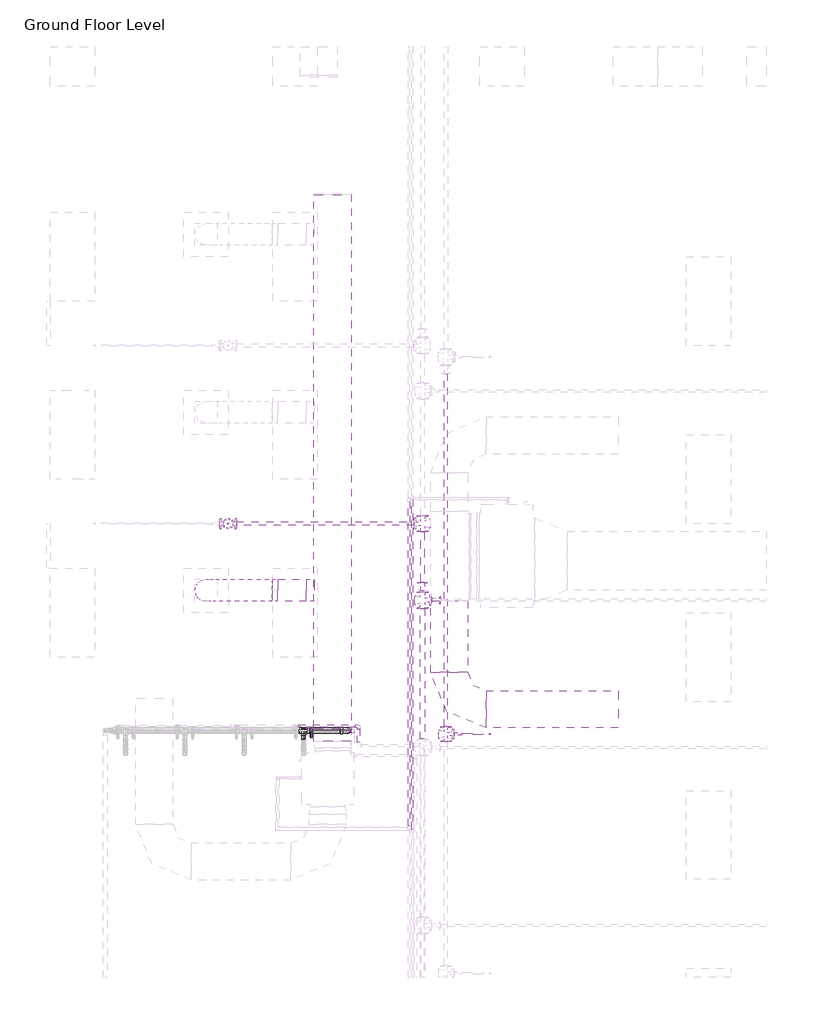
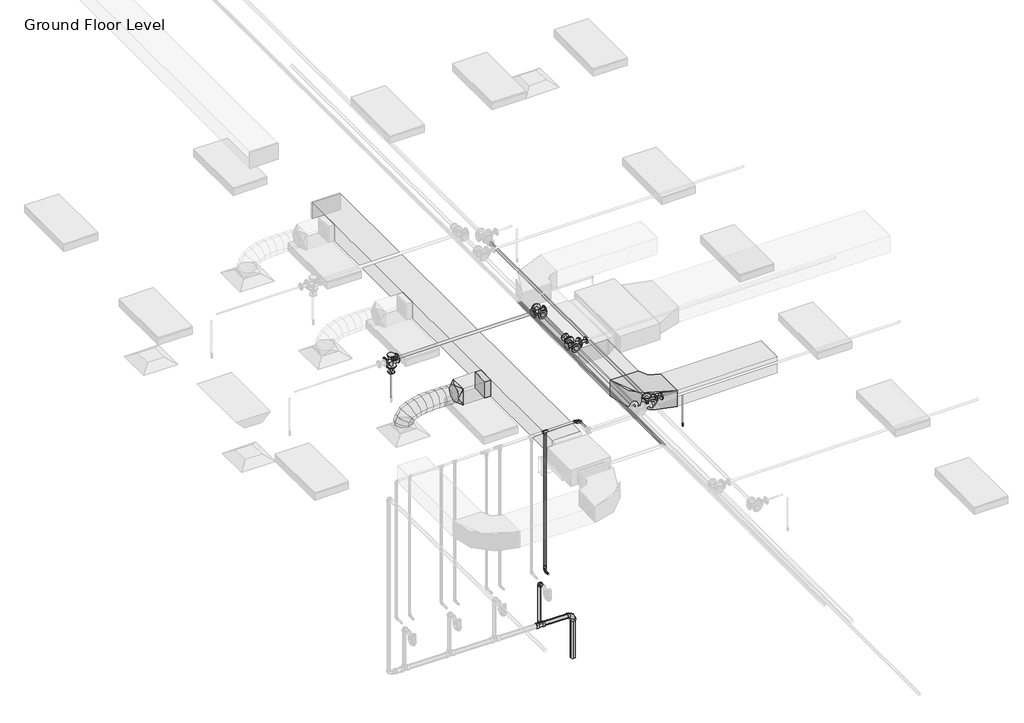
# One storey, part 24 of 66: 18 pipe segments, 16 pipe fittings, 5 duct segments, 3 duct fittings, 1 fire suppression terminal.
"""IFC4 building model written with IfcOpenShell, lengths in millimetres."""

from ifc_helpers import new_model, si_unit, point, frame, frame_2d, origin, place, context, project, spatial, polyline, circle_curve, ellipse_curve, trimmed, segment, composite_curve, outline, extrude, transform, mapped, element, save
from ifc_brep_helpers import plane_surface, cylinder_surface, advanced_brep
from components import m_rectangular_elbow_radius_1_w_abe20169, m_rectangular_takeoff_standard_cb0ccb98, m_rectangular_to_round_transition_angle_45_degree_641efff0, m_sprinkler_pendent_15_mm_pendent_06fcbd8e, m_bend_pvc_sch_40_dwv_standard_0eeb11e1, m_bend_pvc_sch_40_dwv_standard_1e7bdcc1, m_reducer_flanged_cs_class_150_standard_cc2a7c1d, m_reducer_flanged_cs_class_150_standard_3ab32b2b, m_reducer_flanged_cs_class_150_standard_a7631c35, m_reducer_flanged_cs_class_150_standard_dc68ad9d, m_tee_reducing_sanitary_pvc_sch_40_dwv_standard_21d2848c, m_tee_round_base_flanged_cs_class_150_standard_dd767e04, m_tee_round_base_flanged_cs_class_150_standard_9c9133d0, m_tee_round_base_flanged_cs_class_150_standard_ab36f383, standard_b266ab3f, standard_517a5a8d, standard_72b35c3b, standard_c7dcb452

model = new_model("IFC4")

# Units and contexts
model_context = context("Model", 3, world=origin())
ifc_project = project(units=[si_unit("LENGTHUNIT", "METRE", prefix="MILLI")], contexts=[model_context])

# Site, building, storey
site = spatial("IfcSite", under=ifc_project)
building = spatial("IfcBuilding", under=site)
storey = spatial("IfcBuildingStorey", under=building, Name="Ground Floor Level", Elevation=900.0)

# Duct fittings
placement = place(None, origin())
m_rectangular_elbow_radius_1_w_shape = m_rectangular_elbow_radius_1_w_abe20169(model_context)
element("IfcDuctFitting", 1, ObjectType="M_Rectangular Elbow - Radius : 1 W", at=placement, inside=storey, context=model_context, shape_type="MappedRepresentation", body=[
    mapped(m_rectangular_elbow_radius_1_w_shape, transform((6040.9897768, -23568.5689179, 4082.4543707), x_axis=(0.0, -1.0, 0.0), y_axis=(1.0, 0.0, 0.0), z_axis=(0.0, 0.0, 1.0))),
])
m_rectangular_takeoff_standard_shape = m_rectangular_takeoff_standard_cb0ccb98(model_context)
element("IfcDuctFitting", 2, ObjectType="M_Rectangular Takeoff : Standard", at=placement, inside=storey, context=model_context, shape_type="MappedRepresentation", body=[
    mapped(m_rectangular_takeoff_standard_shape, transform((4219.1581832, -21964.7846466, 4057.1519579), x_axis=(-1.0, 0.0, 0.0), y_axis=(0.0, 1.0, 0.0), z_axis=(0.0, 0.0, -1.0))),
])
m_rectangular_to_round_transition_angle_45_degree_shape = m_rectangular_to_round_transition_angle_45_degree_641efff0(model_context)
element("IfcDuctFitting", 3, ObjectType="M_Rectangular to Round Transition - Angle : 45 Degree", at=placement, inside=storey, context=model_context, shape_type="MappedRepresentation", body=[
    mapped(m_rectangular_to_round_transition_angle_45_degree_shape, transform((3732.9512129, -21964.7846466, 4057.1519579), x_axis=(-1.0, 0.0, 0.0), y_axis=(0.0, -1.0, 0.0), z_axis=(0.0, 0.0, 1.0))),
])

# Duct segments
element("IfcDuctSegment", 4, ObjectType="Flex - Round", at=placement, inside=storey, context=model_context, shape_type="AdvancedBrep", body=[
    advanced_brep(
    [(2912.7672395, -21964.7846466, 3826.6), (2762.7672395, -22114.7846466, 3826.6), (2612.7672395, -21964.7846466, 3826.6), (2762.7672395, -21814.7846466, 3826.6), (2912.7672395, -21964.7846466, 3832.8904143), (2762.7672395, -22114.7846466, 3856.8494149), (2612.7672395, -21964.7846466, 3880.8084155), (2762.7672395, -21814.7846466, 3856.8494149), (2914.0859082, -21964.7846466, 3836.9129923), (2779.5128239, -22114.7846466, 3907.9315565), (2644.9397396, -21964.7846466, 3978.9501208), (2779.5128239, -21814.7846466, 3907.9315565), (2928.1338147, -21964.7846466, 3855.2244817), (2826.2856906, -22114.7846466, 3968.9001322), (2724.4375665, -21964.7846466, 4082.5757828), (2826.2856906, -21814.7846466, 3968.9001322), (2960.075367, -21964.7846466, 3874.5779986), (2897.8900097, -22114.7846466, 4012.2854816), (2835.7046525, -21964.7846466, 4149.9929645), (2897.8900097, -21814.7846466, 4012.2854816), (3023.3471395, -21964.7846466, 3894.3985509), (2989.1299517, -22114.7846466, 4040.8673589), (2954.9127638, -21964.7846466, 4187.3361668), (2989.1299517, -21814.7846466, 4040.8673589), (3111.2174774, -21964.7846466, 3908.1662907), (3094.8096865, -22114.7846466, 4057.4255186), (3078.4018957, -21964.7846466, 4206.6847465), (3094.8096865, -21814.7846466, 4057.4255186), (3215.0370803, -21964.7846466, 3914.773779), (3209.7333846, -22114.7846466, 4064.7397152), (3204.4296888, -21964.7846466, 4214.7056514), (3209.7333846, -21814.7846466, 4064.7397152), (3327.4369923, -21964.7846466, 3915.576814), (3328.705216, -22114.7846466, 4065.589703), (3329.9734397, -21964.7846466, 4215.6025919), (3328.705216, -21814.7846466, 4065.589703), (3442.2113611, -21964.7846466, 3912.815715), (3446.529351, -22114.7846466, 4062.7552364), (3450.847341, -21964.7846466, 4212.6947579), (3446.529351, -21814.7846466, 4062.7552364), (3554.0566752, -21964.7846466, 3909.0643159), (3558.0099599, -22114.7846466, 4059.0160699), (3561.9632447, -21964.7846466, 4208.9678239), (3558.0099599, -21814.7846466, 4059.0160699), (3657.9512129, -21964.7846466, 3907.1519579), (3657.9512129, -21814.7846466, 4057.1519579), (3657.9512129, -21964.7846466, 4207.1519579), (3657.9512129, -22114.7846466, 4057.1519579), (3653.7148319, -21964.7846466, 3907.1519579), (3655.1538878, -22114.7846466, 4057.1519579), (3656.5929436, -21964.7846466, 4207.1519579), (3655.1538878, -21814.7846466, 4057.1519579)],
    [
        (0, 1, circle_curve(frame((2762.7672395, -21964.7846466, 3826.6), z_axis=(0.0, 0.0, -1.0), x_axis=(1.0, 0.0, 0.0)), 150.0)),
        (1, 2, circle_curve(frame((2762.7672395, -21964.7846466, 3826.6), z_axis=(0.0, 0.0, -1.0), x_axis=(1.0, 0.0, 0.0)), 150.0)),
        (2, 3, circle_curve(frame((2762.7672395, -21964.7846466, 3826.6), z_axis=(0.0, 0.0, -1.0), x_axis=(1.0, 0.0, 0.0)), 150.0)),
        (3, 0, circle_curve(frame((2762.7672395, -21964.7846466, 3826.6), z_axis=(0.0, 0.0, -1.0), x_axis=(1.0, 0.0, 0.0)), 150.0)),
        (0, 4),
        (4, 5, ellipse_curve(frame((2762.7672395, -21964.7846466, 3856.8494149), z_axis=(-0.1577273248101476, 0.0, -0.9874827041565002), x_axis=(0.9874827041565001, 0.0, -0.1577273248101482)), 151.9013947, 150.0)),
        (5, 1),
        (5, 6, ellipse_curve(frame((2762.7672395, -21964.7846466, 3856.8494149), z_axis=(-0.1577273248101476, 0.0, -0.9874827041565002), x_axis=(0.9874827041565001, 0.0, -0.1577273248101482)), 151.9013947, 150.0)),
        (6, 2),
        (6, 7, ellipse_curve(frame((2762.7672395, -21964.7846466, 3856.8494149), z_axis=(-0.1577273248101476, 0.0, -0.9874827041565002), x_axis=(0.9874827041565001, 0.0, -0.1577273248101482)), 151.9013947, 150.0)),
        (7, 3),
        (7, 4, ellipse_curve(frame((2762.7672395, -21964.7846466, 3856.8494149), z_axis=(-0.1577273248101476, 0.0, -0.9874827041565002), x_axis=(0.9874827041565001, 0.0, -0.1577273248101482)), 151.9013947, 150.0)),
        (4, 8),
        (8, 9, ellipse_curve(frame((2779.5128239, -21964.7846466, 3907.9315565), z_axis=(-0.46672716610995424, 0.0, -0.8844013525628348), x_axis=(0.8844013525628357, 0.0, -0.466727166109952)), 152.162911, 150.0)),
        (9, 5),
        (9, 10, ellipse_curve(frame((2779.5128239, -21964.7846466, 3907.9315565), z_axis=(-0.46672716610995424, 0.0, -0.8844013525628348), x_axis=(0.8844013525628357, 0.0, -0.466727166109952)), 152.162911, 150.0)),
        (10, 6),
        (10, 11, ellipse_curve(frame((2779.5128239, -21964.7846466, 3907.9315565), z_axis=(-0.46672716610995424, 0.0, -0.8844013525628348), x_axis=(0.8844013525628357, 0.0, -0.466727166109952)), 152.162911, 150.0)),
        (11, 7),
        (11, 8, ellipse_curve(frame((2779.5128239, -21964.7846466, 3907.9315565), z_axis=(-0.46672716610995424, 0.0, -0.8844013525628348), x_axis=(0.8844013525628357, 0.0, -0.466727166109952)), 152.162911, 150.0)),
        (8, 12),
        (12, 13, ellipse_curve(frame((2826.2856906, -21964.7846466, 3968.9001322), z_axis=(-0.744790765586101, 0.0, -0.6672980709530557), x_axis=(0.6672980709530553, 0.0, -0.7447907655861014)), 152.6276316, 150.0)),
        (13, 9),
        (13, 14, ellipse_curve(frame((2826.2856906, -21964.7846466, 3968.9001322), z_axis=(-0.744790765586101, 0.0, -0.6672980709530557), x_axis=(0.6672980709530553, 0.0, -0.7447907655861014)), 152.6276316, 150.0)),
        (14, 10),
        (14, 15, ellipse_curve(frame((2826.2856906, -21964.7846466, 3968.9001322), z_axis=(-0.744790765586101, 0.0, -0.6672980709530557), x_axis=(0.6672980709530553, 0.0, -0.7447907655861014)), 152.6276316, 150.0)),
        (15, 11),
        (15, 12, ellipse_curve(frame((2826.2856906, -21964.7846466, 3968.9001322), z_axis=(-0.744790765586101, 0.0, -0.6672980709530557), x_axis=(0.6672980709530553, 0.0, -0.7447907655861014)), 152.6276316, 150.0)),
        (12, 16),
        (16, 17, ellipse_curve(frame((2897.8900097, -21964.7846466, 4012.2854816), z_axis=(-0.9113833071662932, 0.0, -0.41155858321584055), x_axis=(0.41155858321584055, 0.0, -0.9113833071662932)), 151.0972187, 150.0)),
        (17, 13),
        (17, 18, ellipse_curve(frame((2897.8900097, -21964.7846466, 4012.2854816), z_axis=(-0.9113833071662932, 0.0, -0.41155858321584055), x_axis=(0.41155858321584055, 0.0, -0.9113833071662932)), 151.0972187, 150.0)),
        (18, 14),
        (18, 19, ellipse_curve(frame((2897.8900097, -21964.7846466, 4012.2854816), z_axis=(-0.9113833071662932, 0.0, -0.41155858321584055), x_axis=(0.41155858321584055, 0.0, -0.9113833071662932)), 151.0972187, 150.0)),
        (19, 15),
        (19, 16, ellipse_curve(frame((2897.8900097, -21964.7846466, 4012.2854816), z_axis=(-0.9113833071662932, 0.0, -0.41155858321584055), x_axis=(0.41155858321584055, 0.0, -0.9113833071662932)), 151.0972187, 150.0)),
        (16, 20),
        (20, 21, ellipse_curve(frame((2989.1299517, -21964.7846466, 4040.8673589), z_axis=(-0.9737806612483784, 0.0, -0.22748895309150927), x_axis=(0.22748895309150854, 0.0, -0.9737806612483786)), 150.4125249, 150.0)),
        (21, 17),
        (21, 22, ellipse_curve(frame((2989.1299517, -21964.7846466, 4040.8673589), z_axis=(-0.9737806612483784, 0.0, -0.22748895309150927), x_axis=(0.22748895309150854, 0.0, -0.9737806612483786)), 150.4125249, 150.0)),
        (22, 18),
        (22, 23, ellipse_curve(frame((2989.1299517, -21964.7846466, 4040.8673589), z_axis=(-0.9737806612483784, 0.0, -0.22748895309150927), x_axis=(0.22748895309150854, 0.0, -0.9737806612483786)), 150.4125249, 150.0)),
        (23, 19),
        (23, 20, ellipse_curve(frame((2989.1299517, -21964.7846466, 4040.8673589), z_axis=(-0.9737806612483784, 0.0, -0.22748895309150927), x_axis=(0.22748895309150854, 0.0, -0.9737806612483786)), 150.4125249, 150.0)),
        (20, 24),
        (24, 25, ellipse_curve(frame((3094.8096865, -21964.7846466, 4057.4255186), z_axis=(-0.9940121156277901, 0.0, -0.109269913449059), x_axis=(0.10926991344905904, 0.0, -0.9940121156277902)), 150.1583588, 150.0)),
        (25, 21),
        (25, 26, ellipse_curve(frame((3094.8096865, -21964.7846466, 4057.4255186), z_axis=(-0.9940121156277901, 0.0, -0.109269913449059), x_axis=(0.10926991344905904, 0.0, -0.9940121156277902)), 150.1583588, 150.0)),
        (26, 22),
        (26, 27, ellipse_curve(frame((3094.8096865, -21964.7846466, 4057.4255186), z_axis=(-0.9940121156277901, 0.0, -0.109269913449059), x_axis=(0.10926991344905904, 0.0, -0.9940121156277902)), 150.1583588, 150.0)),
        (27, 23),
        (27, 24, ellipse_curve(frame((3094.8096865, -21964.7846466, 4057.4255186), z_axis=(-0.9940121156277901, 0.0, -0.109269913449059), x_axis=(0.10926991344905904, 0.0, -0.9940121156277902)), 150.1583588, 150.0)),
        (24, 28),
        (28, 29, ellipse_curve(frame((3209.7333846, -21964.7846466, 4064.7397152), z_axis=(-0.9993752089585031, 0.0, -0.035343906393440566), x_axis=(0.035343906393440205, 0.0, -0.9993752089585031)), 150.0596922, 150.0)),
        (29, 25),
        (29, 30, ellipse_curve(frame((3209.7333846, -21964.7846466, 4064.7397152), z_axis=(-0.9993752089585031, 0.0, -0.035343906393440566), x_axis=(0.035343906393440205, 0.0, -0.9993752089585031)), 150.0596922, 150.0)),
        (30, 26),
        (30, 31, ellipse_curve(frame((3209.7333846, -21964.7846466, 4064.7397152), z_axis=(-0.9993752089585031, 0.0, -0.035343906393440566), x_axis=(0.035343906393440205, 0.0, -0.9993752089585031)), 150.0596922, 150.0)),
        (31, 27),
        (31, 28, ellipse_curve(frame((3209.7333846, -21964.7846466, 4064.7397152), z_axis=(-0.9993752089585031, 0.0, -0.035343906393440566), x_axis=(0.035343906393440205, 0.0, -0.9993752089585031)), 150.0596922, 150.0)),
        (28, 32),
        (32, 33, ellipse_curve(frame((3328.705216, -21964.7846466, 4065.589703), z_axis=(-0.9999642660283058, 0.0, 0.008453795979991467), x_axis=(-0.00845379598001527, 0.0, -0.9999642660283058)), 150.0182497, 150.0)),
        (33, 29),
        (33, 34, ellipse_curve(frame((3328.705216, -21964.7846466, 4065.589703), z_axis=(-0.9999642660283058, 0.0, 0.008453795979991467), x_axis=(-0.00845379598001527, 0.0, -0.9999642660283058)), 150.0182497, 150.0)),
        (34, 30),
        (34, 35, ellipse_curve(frame((3328.705216, -21964.7846466, 4065.589703), z_axis=(-0.9999642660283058, 0.0, 0.008453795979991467), x_axis=(-0.00845379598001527, 0.0, -0.9999642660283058)), 150.0182497, 150.0)),
        (35, 31),
        (35, 32, ellipse_curve(frame((3328.705216, -21964.7846466, 4065.589703), z_axis=(-0.9999642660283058, 0.0, 0.008453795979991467), x_axis=(-0.00845379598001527, 0.0, -0.9999642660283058)), 150.0182497, 150.0)),
        (32, 36),
        (36, 37, ellipse_curve(frame((3446.529351, -21964.7846466, 4062.7552364), z_axis=(-0.9995855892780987, 0.0, 0.028786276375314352), x_axis=(-0.028786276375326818, 0.0, -0.9995855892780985)), 150.0016838, 150.0)),
        (37, 33),
        (37, 38, ellipse_curve(frame((3446.529351, -21964.7846466, 4062.7552364), z_axis=(-0.9995855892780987, 0.0, 0.028786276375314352), x_axis=(-0.028786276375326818, 0.0, -0.9995855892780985)), 150.0016838, 150.0)),
        (38, 34),
        (38, 39, ellipse_curve(frame((3446.529351, -21964.7846466, 4062.7552364), z_axis=(-0.9995855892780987, 0.0, 0.028786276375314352), x_axis=(-0.028786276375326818, 0.0, -0.9995855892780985)), 150.0016838, 150.0)),
        (39, 35),
        (39, 36, ellipse_curve(frame((3446.529351, -21964.7846466, 4062.7552364), z_axis=(-0.9995855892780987, 0.0, 0.028786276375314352), x_axis=(-0.028786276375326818, 0.0, -0.9995855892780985)), 150.0016838, 150.0)),
        (36, 40),
        (40, 41, ellipse_curve(frame((3558.0099599, -21964.7846466, 4059.0160699), z_axis=(-0.999652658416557, 0.0, 0.026354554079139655), x_axis=(0.026354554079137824, 0.0, 0.9996526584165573)), 150.0038566, 150.0)),
        (41, 37),
        (41, 42, ellipse_curve(frame((3558.0099599, -21964.7846466, 4059.0160699), z_axis=(-0.999652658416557, 0.0, 0.026354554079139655), x_axis=(0.026354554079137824, 0.0, 0.9996526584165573)), 150.0038566, 150.0)),
        (42, 38),
        (42, 43, ellipse_curve(frame((3558.0099599, -21964.7846466, 4059.0160699), z_axis=(-0.999652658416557, 0.0, 0.026354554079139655), x_axis=(0.026354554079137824, 0.0, 0.9996526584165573)), 150.0038566, 150.0)),
        (43, 39),
        (43, 40, ellipse_curve(frame((3558.0099599, -21964.7846466, 4059.0160699), z_axis=(-0.999652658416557, 0.0, 0.026354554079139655), x_axis=(0.026354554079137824, 0.0, 0.9996526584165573)), 150.0038566, 150.0)),
        (44, 45, circle_curve(frame((3657.9512129, -21964.7846466, 4057.1519579), z_axis=(1.0, 0.0, 0.0), x_axis=(0.0, 0.0, -1.0)), 150.0)),
        (45, 46, circle_curve(frame((3657.9512129, -21964.7846466, 4057.1519579), z_axis=(1.0, 0.0, 0.0), x_axis=(0.0, 0.0, -1.0)), 150.0)),
        (46, 47, circle_curve(frame((3657.9512129, -21964.7846466, 4057.1519579), z_axis=(1.0, 0.0, 0.0), x_axis=(0.0, 0.0, -1.0)), 150.0)),
        (47, 44, circle_curve(frame((3657.9512129, -21964.7846466, 4057.1519579), z_axis=(1.0, 0.0, 0.0), x_axis=(0.0, 0.0, -1.0)), 150.0)),
        (40, 48),
        (48, 49, ellipse_curve(frame((3655.1538878, -21964.7846466, 4057.1519579), z_axis=(-0.9999539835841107, 0.0, 0.009593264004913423), x_axis=(0.009593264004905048, 0.0, 0.9999539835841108)), 150.0069028, 150.0)),
        (49, 41),
        (49, 50, ellipse_curve(frame((3655.1538878, -21964.7846466, 4057.1519579), z_axis=(-0.9999539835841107, 0.0, 0.009593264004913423), x_axis=(0.009593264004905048, 0.0, 0.9999539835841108)), 150.0069028, 150.0)),
        (50, 42),
        (50, 51, ellipse_curve(frame((3655.1538878, -21964.7846466, 4057.1519579), z_axis=(-0.9999539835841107, 0.0, 0.009593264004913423), x_axis=(0.009593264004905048, 0.0, 0.9999539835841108)), 150.0069028, 150.0)),
        (51, 43),
        (51, 48, ellipse_curve(frame((3655.1538878, -21964.7846466, 4057.1519579), z_axis=(-0.9999539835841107, 0.0, 0.009593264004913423), x_axis=(0.009593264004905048, 0.0, 0.9999539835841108)), 150.0069028, 150.0)),
        (48, 44),
        (47, 49),
        (46, 50),
        (45, 51),
    ],
    [
        plane_surface(frame((2762.7672395, -22114.7846466, 3826.6), z_axis=(0.0, 0.0, -1.0), x_axis=(1.0, 0.0, 0.0))),
        cylinder_surface(frame((2762.7672395, -21964.7846466, 3826.6), z_axis=(0.0, 0.0, -1.0), x_axis=(1.0, 0.0, 0.0)), 150.0),
        cylinder_surface(frame((2762.7672395, -21964.7846466, 3856.8494149), z_axis=(-0.3115060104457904, 0.0, -0.9502441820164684), x_axis=(0.9502441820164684, 0.0, -0.3115060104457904)), 150.0),
        cylinder_surface(frame((2779.5128239, -21964.7846466, 3907.9315565), z_axis=(-0.6086797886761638, 0.0, -0.7934159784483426), x_axis=(0.7934159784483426, 0.0, -0.6086797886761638)), 150.0),
        cylinder_surface(frame((2826.2856906, -21964.7846466, 3968.9001322), z_axis=(-0.8552571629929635, 0.0, -0.5182038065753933), x_axis=(0.5182038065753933, 0.0, -0.8552571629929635)), 150.0),
        cylinder_surface(frame((2897.8900097, -21964.7846466, 4012.2854816), z_axis=(-0.9542731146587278, 0.0, -0.29893615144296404), x_axis=(0.29893615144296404, 0.0, -0.9542731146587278)), 150.0),
        cylinder_surface(frame((2989.1299517, -21964.7846466, 4040.8673589), z_axis=(-0.9879467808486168, 0.0, -0.15479392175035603), x_axis=(0.15479392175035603, 0.0, -0.9879467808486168)), 150.0),
        cylinder_surface(frame((3094.8096865, -21964.7846466, 4057.4255186), z_axis=(-0.997980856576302, 0.0, -0.06351543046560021), x_axis=(0.06351543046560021, 0.0, -0.997980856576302)), 150.0),
        cylinder_surface(frame((3209.7333846, -21964.7846466, 4064.7397152), z_axis=(-0.9999744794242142, 0.0, -0.007144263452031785), x_axis=(0.007144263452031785, 0.0, -0.9999744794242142)), 150.0),
        cylinder_surface(frame((3328.705216, -21964.7846466, 4065.589703), z_axis=(-0.9997107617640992, 0.0, 0.024049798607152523), x_axis=(-0.024049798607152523, 0.0, -0.9997107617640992)), 150.0),
        cylinder_surface(frame((3446.529351, -21964.7846466, 4062.7552364), z_axis=(-0.9994379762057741, 0.0, 0.03352210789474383), x_axis=(-0.03352210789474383, 0.0, -0.9994379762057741)), 150.0),
        plane_surface(frame((3657.9512129, -21964.7846466, 3907.1519579), z_axis=(1.0, 0.0, 0.0), x_axis=(0.0, 1.0, 0.0))),
        cylinder_surface(frame((3558.0099599, -21964.7846466, 4059.0160699), z_axis=(-0.9998159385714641, 0.0, 0.01918564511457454), x_axis=(-0.01918564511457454, 0.0, -0.9998159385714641)), 150.0),
        cylinder_surface(frame((3655.1538878, -21964.7846466, 4057.1519579), z_axis=(-1.0, 0.0, 0.0), x_axis=(0.0, 0.0, -1.0)), 150.0),
    ],
    [
        (0, [[1, 2, 3, 4]]),
        (1, [[-1, 5, 6, 7]]),
        (1, [[-2, -7, 8, 9]]),
        (1, [[-3, -9, 10, 11]]),
        (1, [[-4, -11, 12, -5]]),
        (2, [[-6, 13, 14, 15]]),
        (2, [[-8, -15, 16, 17]]),
        (2, [[-10, -17, 18, 19]]),
        (2, [[-12, -19, 20, -13]]),
        (3, [[-14, 21, 22, 23]]),
        (3, [[-16, -23, 24, 25]]),
        (3, [[-18, -25, 26, 27]]),
        (3, [[-20, -27, 28, -21]]),
        (4, [[-22, 29, 30, 31]]),
        (4, [[-24, -31, 32, 33]]),
        (4, [[-26, -33, 34, 35]]),
        (4, [[-28, -35, 36, -29]]),
        (5, [[-30, 37, 38, 39]]),
        (5, [[-32, -39, 40, 41]]),
        (5, [[-34, -41, 42, 43]]),
        (5, [[-36, -43, 44, -37]]),
        (6, [[-38, 45, 46, 47]]),
        (6, [[-40, -47, 48, 49]]),
        (6, [[-42, -49, 50, 51]]),
        (6, [[-44, -51, 52, -45]]),
        (7, [[-46, 53, 54, 55]]),
        (7, [[-48, -55, 56, 57]]),
        (7, [[-50, -57, 58, 59]]),
        (7, [[-52, -59, 60, -53]]),
        (8, [[-54, 61, 62, 63]]),
        (8, [[-56, -63, 64, 65]]),
        (8, [[-58, -65, 66, 67]]),
        (8, [[-60, -67, 68, -61]]),
        (9, [[-62, 69, 70, 71]]),
        (9, [[-64, -71, 72, 73]]),
        (9, [[-66, -73, 74, 75]]),
        (9, [[-68, -75, 76, -69]]),
        (10, [[-70, 77, 78, 79]]),
        (10, [[-72, -79, 80, 81]]),
        (10, [[-74, -81, 82, 83]]),
        (10, [[-76, -83, 84, -77]]),
        (11, [[85, 86, 87, 88]]),
        (12, [[-78, 89, 90, 91]]),
        (12, [[-80, -91, 92, 93]]),
        (12, [[-82, -93, 94, 95]]),
        (12, [[-84, -95, 96, -89]]),
        (13, [[-90, 97, -88, 98]]),
        (13, [[-92, -98, -87, 99]]),
        (13, [[-94, -99, -86, 100]]),
        (13, [[-96, -100, -85, -97]]),
    ],
),
])
element("IfcDuctSegment", 5, ObjectType="Radius Elbows / Taps", at=placement, inside=storey, context=model_context, shape_type="SweptSolid", body=[
    extrude(outline(polyline([(0.0, -500.0), (0.0, 0.0), (7371.604175, 0.0), (7371.604175, -500.0), (0.0, -500.0)])), frame((4719.1581832, -16631.8629481, 3907.1429453), z_axis=(0.0, 1.6199957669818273e-06, 0.9999999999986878), x_axis=(0.0, -0.9999999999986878, 1.6199957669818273e-06)), (0.0, 0.0, 1.0), 300.0),
])
element("IfcDuctSegment", 6, ObjectType="Radius Elbows / Taps", at=placement, inside=storey, context=model_context, shape_type="SweptSolid", body=[
    extrude(outline(polyline([(5790.9897768, -22108.5689179), (6290.9897768, -22108.5689179), (6290.9897768, -23068.5689179), (5790.9897768, -23068.5689179), (5790.9897768, -22108.5689179)])), frame((0.0, 0.0, 3932.4543707), z_axis=(0.0, 0.0, 1.0), x_axis=(1.0, 0.0, 0.0)), (0.0, 0.0, 1.0), 300.0),
])
element("IfcDuctSegment", 7, ObjectType="Radius Elbows / Taps", at=placement, inside=storey, context=model_context, shape_type="SweptSolid", body=[
    extrude(outline(polyline([(6540.9897768, -23818.5689179), (6540.9897768, -23318.5689179), (8320.9897766, -23318.5689179), (8320.9897766, -23818.5689179), (6540.9897768, -23818.5689179)])), frame((0.0, 0.0, 3932.4543707), z_axis=(0.0, 0.0, 1.0), x_axis=(1.0, 0.0, 0.0)), (0.0, 0.0, 1.0), 300.0),
])
element("IfcDuctSegment", 8, ObjectType="Radius Elbows / Taps", at=placement, inside=storey, context=model_context, shape_type="SweptSolid", body=[
    extrude(outline(polyline([(4117.5581832, -21814.7846466), (4117.5581832, -22114.7846466), (3732.9512129, -22114.7846466), (3732.9512129, -21814.7846466), (4117.5581832, -21814.7846466)])), frame((0.0, 0.0, 3907.1519579), z_axis=(0.0, 0.0, 1.0), x_axis=(1.0, 0.0, 0.0)), (0.0, 0.0, 1.0), 300.0),
])

# Fire suppression terminal
m_sprinkler_pendent_15_mm_pendent_shape = m_sprinkler_pendent_15_mm_pendent_06fcbd8e(model_context)
element("IfcFireSuppressionTerminal", 9, ObjectType="M_Sprinkler - Pendent : 15 mm Pendent", at=placement, inside=storey, context=model_context, shape_type="MappedRepresentation", body=[
    mapped(m_sprinkler_pendent_15_mm_pendent_shape, transform((6592.5481019, -23903.6779349, 3650.0), x_axis=(1.0, 0.0, 0.0), y_axis=(0.0, 1.0, 0.0), z_axis=(0.0, 0.0, 1.0))),
])

# Pipe fittings
m_bend_pvc_sch_40_dwv_standard_shape = m_bend_pvc_sch_40_dwv_standard_0eeb11e1(model_context)
element("IfcPipeFitting", 10, ObjectType="M_Bend - PVC - Sch 40 - DWV : Standard", at=placement, inside=storey, context=model_context, shape_type="MappedRepresentation", body=[
    mapped(m_bend_pvc_sch_40_dwv_standard_shape, transform((4671.3267974, -23854.2948449, 706.9937306), x_axis=(0.9999500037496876, 0.0, -0.009999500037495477), y_axis=(-0.009999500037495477, 0.0, -0.9999500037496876), z_axis=(0.0, 1.0, 0.0))),
])
m_bend_pvc_sch_40_dwv_standard_2_shape = m_bend_pvc_sch_40_dwv_standard_1e7bdcc1(model_context)
element("IfcPipeFitting", 11, ObjectType="M_Bend - PVC - Sch 40 - DWV : Standard", at=placement, inside=storey, context=model_context, shape_type="MappedRepresentation", body=[
    mapped(m_bend_pvc_sch_40_dwv_standard_2_shape, transform((4078.7498, -23854.2948449, 1508.2594199), x_axis=(0.0, 0.9999500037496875, -0.00999950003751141), y_axis=(0.0, -0.00999950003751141, -0.9999500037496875), z_axis=(-1.0, 0.0, 0.0))),
])
m_reducer_flanged_cs_class_150_standard_shape = m_reducer_flanged_cs_class_150_standard_cc2a7c1d(model_context)
element("IfcPipeFitting", 12, ObjectType="M_Reducer - Flanged - CS - Class 150 : Standard", at=placement, inside=storey, context=model_context, shape_type="MappedRepresentation", body=[
    mapped(m_reducer_flanged_cs_class_150_standard_shape, transform((6103.1564057, -23903.6779349, 4291.2754753), x_axis=(1.0, 0.0, 0.0), y_axis=(0.0, 0.0, -1.0), z_axis=(0.0, 1.0, 0.0))),
])
m_reducer_flanged_cs_class_150_standard_2_shape = m_reducer_flanged_cs_class_150_standard_3ab32b2b(model_context)
element("IfcPipeFitting", 13, ObjectType="M_Reducer - Flanged - CS - Class 150 : Standard", at=placement, inside=storey, context=model_context, shape_type="MappedRepresentation", body=[
    mapped(m_reducer_flanged_cs_class_150_standard_2_shape, transform((5684.6174894, -21984.0287346, 4347.5), x_axis=(0.0, 1.0, 0.0), y_axis=(-1.0, 0.0, 0.0), z_axis=(0.0, 0.0, 1.0))),
])
m_reducer_flanged_cs_class_150_standard_3_shape = m_reducer_flanged_cs_class_150_standard_a7631c35(model_context)
element("IfcPipeFitting", 14, ObjectType="M_Reducer - Flanged - CS - Class 150 : Standard", at=placement, inside=storey, context=model_context, shape_type="MappedRepresentation", body=[
    mapped(m_reducer_flanged_cs_class_150_standard_3_shape, transform((5798.6174894, -22098.0287346, 4347.5), x_axis=(1.0, 0.0, 0.0), y_axis=(0.0, 0.0, 1.0), z_axis=(0.0, -1.0, 0.0))),
])
m_reducer_flanged_cs_class_150_standard_4_shape = m_reducer_flanged_cs_class_150_standard_dc68ad9d(model_context)
element("IfcPipeFitting", 15, ObjectType="M_Reducer - Flanged - CS - Class 150 : Standard", at=placement, inside=storey, context=model_context, shape_type="MappedRepresentation", body=[
    mapped(m_reducer_flanged_cs_class_150_standard_4_shape, transform((3062.7672395, -21064.7846466, 4235.2414062), x_axis=(0.0, 0.0, -1.0), y_axis=(-1.0, 0.0, 0.0), z_axis=(0.0, 1.0, 0.0))),
])
m_tee_reducing_sanitary_pvc_sch_40_dwv_standard_shape = m_tee_reducing_sanitary_pvc_sch_40_dwv_standard_21d2848c(model_context)
element("IfcPipeFitting", 16, ObjectType="M_Tee Reducing Sanitary - PVC - Sch 40 - DWV : Standard", at=placement, inside=storey, context=model_context, shape_type="MappedRepresentation", body=[
    mapped(m_tee_reducing_sanitary_pvc_sch_40_dwv_standard_shape, transform((4078.7498, -23854.2948449, 713.0632162), x_axis=(-0.9999500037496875, 0.0, 0.00999950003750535), y_axis=(-0.00999950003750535, 0.0, -0.9999500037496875), z_axis=(0.0, -1.0, 0.0))),
])
m_tee_round_base_flanged_cs_class_150_standard_shape = m_tee_round_base_flanged_cs_class_150_standard_dd767e04(model_context)
element("IfcPipeFitting", 17, ObjectType="M_Tee Round Base - Flanged - CS - Class 150 : Standard", at=placement, inside=storey, context=model_context, shape_type="MappedRepresentation", body=[
    mapped(m_tee_round_base_flanged_cs_class_150_standard_shape, transform((5684.6174894, -22098.0287346, 4347.5), x_axis=(0.0, -1.0, 0.0), y_axis=(-1.0, 0.0, 0.0), z_axis=(0.0, 0.0, -1.0))),
])
m_tee_round_base_flanged_cs_class_150_standard_2_shape = m_tee_round_base_flanged_cs_class_150_standard_9c9133d0(model_context)
element("IfcPipeFitting", 18, ObjectType="M_Tee Round Base - Flanged - CS - Class 150 : Standard", at=placement, inside=storey, context=model_context, shape_type="MappedRepresentation", body=[
    mapped(m_tee_round_base_flanged_cs_class_150_standard_2_shape, transform((5997.057812, -23903.6779349, 4291.0943441), x_axis=(0.0, 1.0, 0.0), y_axis=(-1.0, 0.0, 0.0), z_axis=(0.0, 0.0, 1.0))),
])
m_tee_round_base_flanged_cs_class_150_standard_3_shape = m_tee_round_base_flanged_cs_class_150_standard_ab36f383(model_context)
element("IfcPipeFitting", 19, ObjectType="M_Tee Round Base - Flanged - CS - Class 150 : Standard", at=placement, inside=storey, context=model_context, shape_type="MappedRepresentation", body=[
    mapped(m_tee_round_base_flanged_cs_class_150_standard_3_shape, transform((5684.6174894, -21064.7846466, 4347.5), x_axis=(0.0, -1.0, 0.0), y_axis=(1.0, 0.0, 0.0), z_axis=(0.0, 0.0, 1.0))),
])
element("IfcPipeFitting", 20, ObjectType="M_Tee Round Base - Flanged - CS - Class 150 : Standard", at=placement, inside=storey, context=model_context, shape_type="MappedRepresentation", body=[
    mapped(m_tee_round_base_flanged_cs_class_150_standard_3_shape, transform((3062.7672395, -21064.7846466, 4347.5), x_axis=(-1.0, 0.0, 0.0), y_axis=(0.0, 0.0, 1.0), z_axis=(0.0, 1.0, 0.0))),
])
standard_shape = standard_b266ab3f(model_context)
element("IfcPipeFitting", 21, ObjectType="M_Elbow - CPVC - Sch 40 : Standard", at=placement, inside=storey, context=model_context, shape_type="MappedRepresentation", body=[
    mapped(standard_shape, transform((4183.0647206, -23844.7846466, 1690.0), x_axis=(0.0, 1.0, 0.0), y_axis=(0.0, 0.0, 1.0), z_axis=(1.0, 0.0, 0.0))),
])
standard_2_shape = standard_517a5a8d(model_context)
element("IfcPipeFitting", 22, ObjectType="M_Elbow - CPVC - Sch 40 : Standard", at=placement, inside=storey, context=model_context, shape_type="MappedRepresentation", body=[
    mapped(standard_2_shape, transform((4743.0647206, -23844.7846466, 4300.0), x_axis=(0.0, 1.0, 0.0), y_axis=(-1.0, 0.0, 0.0), z_axis=(0.0, 0.0, 1.0))),
])
element("IfcPipeFitting", 23, ObjectType="M_Elbow - CPVC - Sch 40 : Standard", at=placement, inside=storey, context=model_context, shape_type="MappedRepresentation", body=[
    mapped(standard_2_shape, transform((4820.5575802, -23794.921633, 4250.0), x_axis=(0.0, 1.0, 0.0), y_axis=(-1.0, 0.0, 0.0), z_axis=(0.0, 0.0, 1.0))),
])
standard_3_shape = standard_72b35c3b(model_context)
element("IfcPipeFitting", 24, ObjectType="M_Tee - CPVC - Sch 40 : Standard", at=placement, inside=storey, context=model_context, shape_type="MappedRepresentation", body=[
    mapped(standard_3_shape, transform((4183.0647206, -23844.7846466, 4300.0), x_axis=(-1.0, 0.0, 0.0), y_axis=(0.0, 0.0, 1.0), z_axis=(0.0, 1.0, 0.0))),
])
standard_4_shape = standard_c7dcb452(model_context)
element("IfcPipeFitting", 25, ObjectType="M_Coupling Reducing - CPVC - Sch 40 : Standard", at=placement, inside=storey, context=model_context, shape_type="MappedRepresentation", body=[
    mapped(standard_4_shape, transform((4183.0647206, -23844.7846466, 1725.32505), x_axis=(0.0, 0.0, 1.0), y_axis=(0.0, 1.0, 0.0), z_axis=(-1.0, 0.0, 0.0))),
])

# Pipe segments
element("IfcPipeSegment", 26, ObjectType="CPVC", at=placement, inside=storey, context=model_context, shape_type="SweptSolid", body=[
    extrude(outline(composite_curve([segment(trimmed(circle_curve(frame_2d((1690.0, 4183.0647206)), 13.335), [point((1690.0, 4196.3997206))], [point((1703.335, 4183.0647206))], False, "CARTESIAN"), True, "CONTINUOUS"), segment(trimmed(circle_curve(frame_2d((1690.0, 4183.0647206)), 13.335), [point((1703.335, 4183.0647206))], [point((1690.0, 4169.7297206))], False, "CARTESIAN"), True, "CONTINUOUS"), segment(trimmed(circle_curve(frame_2d((1690.0, 4183.0647206)), 13.335), [point((1690.0, 4169.7297206))], [point((1676.665, 4183.0647206))], False, "CARTESIAN"), True, "CONTINUOUS"), segment(trimmed(circle_curve(frame_2d((1690.0, 4183.0647206)), 13.335), [point((1676.665, 4183.0647206))], [point((1690.0, 4196.3997206))], False, "CARTESIAN"), True, "CONTINUOUS")], self_intersect=False)), frame((0.0, -23944.7846466, 0.0), z_axis=(0.0, 1.0, 0.0), x_axis=(0.0, 0.0, 1.0)), (0.0, 0.0, 1.0), 64.67495),
])
element("IfcPipeSegment", 27, ObjectType="CPVC", at=placement, inside=storey, context=model_context, shape_type="SweptSolid", body=[
    extrude(outline(composite_curve([segment(trimmed(circle_curve(frame_2d((-23844.7846466, 4300.0)), 16.7005), [point((-23861.4851466, 4300.0))], [point((-23844.7846466, 4316.7005))], False, "CARTESIAN"), True, "CONTINUOUS"), segment(trimmed(circle_curve(frame_2d((-23844.7846466, 4300.0)), 16.7005), [point((-23844.7846466, 4316.7005))], [point((-23828.0841466, 4300.0))], False, "CARTESIAN"), True, "CONTINUOUS"), segment(trimmed(circle_curve(frame_2d((-23844.7846466, 4300.0)), 16.7005), [point((-23828.0841466, 4300.0))], [point((-23844.7846466, 4283.2995))], False, "CARTESIAN"), True, "CONTINUOUS"), segment(trimmed(circle_curve(frame_2d((-23844.7846466, 4300.0)), 16.7005), [point((-23844.7846466, 4283.2995))], [point((-23861.4851466, 4300.0))], False, "CARTESIAN"), True, "CONTINUOUS")], self_intersect=False)), frame((4222.7649206, 0.0, 0.0), z_axis=(1.0, 0.0, 0.0), x_axis=(0.0, 1.0, 0.0)), (0.0, 0.0, 1.0), 477.03725),
])
element("IfcPipeSegment", 28, ObjectType="CPVC", at=placement, inside=storey, context=model_context, shape_type="SweptSolid", body=[
    extrude(outline(composite_curve([segment(trimmed(circle_curve(frame_2d((4183.0647206, -23844.7846466)), 16.7005), [point((4166.3642206, -23844.7846466))], [point((4183.0647206, -23828.0841466))], False, "CARTESIAN"), True, "CONTINUOUS"), segment(trimmed(circle_curve(frame_2d((4183.0647206, -23844.7846466)), 16.7005), [point((4183.0647206, -23828.0841466))], [point((4199.7652206, -23844.7846466))], False, "CARTESIAN"), True, "CONTINUOUS"), segment(trimmed(circle_curve(frame_2d((4183.0647206, -23844.7846466)), 16.7005), [point((4199.7652206, -23844.7846466))], [point((4183.0647206, -23861.4851466))], False, "CARTESIAN"), True, "CONTINUOUS"), segment(trimmed(circle_curve(frame_2d((4183.0647206, -23844.7846466)), 16.7005), [point((4183.0647206, -23861.4851466))], [point((4166.3642206, -23844.7846466))], False, "CARTESIAN"), True, "CONTINUOUS")], self_intersect=False)), frame((0.0, 0.0, 1782.47505), z_axis=(0.0, 0.0, 1.0), x_axis=(1.0, 0.0, 0.0)), (0.0, 0.0, 1.0), 2477.82475),
])
element("IfcPipeSegment", 29, ObjectType="CPVC", at=placement, inside=storey, context=model_context, shape_type="SweptSolid", body=[
    extrude(outline(composite_curve([segment(trimmed(circle_curve(frame_2d((4250.0, 4820.5575802)), 16.7005), [point((4250.0, 4837.2580802))], [point((4266.7005, 4820.5575802))], False, "CARTESIAN"), True, "CONTINUOUS"), segment(trimmed(circle_curve(frame_2d((4250.0, 4820.5575802)), 16.7005), [point((4266.7005, 4820.5575802))], [point((4250.0, 4803.8570802))], False, "CARTESIAN"), True, "CONTINUOUS"), segment(trimmed(circle_curve(frame_2d((4250.0, 4820.5575802)), 16.7005), [point((4250.0, 4803.8570802))], [point((4233.2995, 4820.5575802))], False, "CARTESIAN"), True, "CONTINUOUS"), segment(trimmed(circle_curve(frame_2d((4250.0, 4820.5575802)), 16.7005), [point((4233.2995, 4820.5575802))], [point((4250.0, 4837.2580802))], False, "CARTESIAN"), True, "CONTINUOUS")], self_intersect=False)), frame((0.0, -24011.659083, 0.0), z_axis=(0.0, 1.0, 0.0), x_axis=(0.0, 0.0, 1.0)), (0.0, 0.0, 1.0), 173.4749),
])
element("IfcPipeSegment", 30, ObjectType="CPVC", at=placement, inside=storey, context=model_context, shape_type="SweptSolid", body=[
    extrude(outline(composite_curve([segment(trimmed(circle_curve(frame_2d((-23794.921633, 4250.0)), 16.7005), [point((-23811.622133, 4250.0))], [point((-23794.921633, 4266.7005))], False, "CARTESIAN"), True, "CONTINUOUS"), segment(trimmed(circle_curve(frame_2d((-23794.921633, 4250.0)), 16.7005), [point((-23794.921633, 4266.7005))], [point((-23778.221133, 4250.0))], False, "CARTESIAN"), True, "CONTINUOUS"), segment(trimmed(circle_curve(frame_2d((-23794.921633, 4250.0)), 16.7005), [point((-23778.221133, 4250.0))], [point((-23794.921633, 4233.2995))], False, "CARTESIAN"), True, "CONTINUOUS"), segment(trimmed(circle_curve(frame_2d((-23794.921633, 4250.0)), 16.7005), [point((-23794.921633, 4233.2995))], [point((-23811.622133, 4250.0))], False, "CARTESIAN"), True, "CONTINUOUS")], self_intersect=False)), frame((4014.1350794, 0.0, 0.0), z_axis=(1.0, 0.0, 0.0), x_axis=(0.0, 1.0, 0.0)), (0.0, 0.0, 1.0), 763.1599508),
])
element("IfcPipeSegment", 31, ObjectType="Copper", at=placement, inside=storey, context=model_context, shape_type="SweptSolid", body=[
    extrude(outline(composite_curve([segment(trimmed(circle_curve(frame_2d((4377.5, 5543.9904113)), 6.5), [point((4377.5, 5550.4904113))], [point((4384.0, 5543.9904113))], False, "CARTESIAN"), True, "CONTINUOUS"), segment(trimmed(circle_curve(frame_2d((4377.5, 5543.9904113)), 6.5), [point((4384.0, 5543.9904113))], [point((4377.5, 5537.4904113))], False, "CARTESIAN"), True, "CONTINUOUS"), segment(trimmed(circle_curve(frame_2d((4377.5, 5543.9904113)), 6.5), [point((4377.5, 5537.4904113))], [point((4371.0, 5543.9904113))], False, "CARTESIAN"), True, "CONTINUOUS"), segment(trimmed(circle_curve(frame_2d((4377.5, 5543.9904113)), 6.5), [point((4371.0, 5543.9904113))], [point((4377.5, 5550.4904113))], False, "CARTESIAN"), True, "CONTINUOUS")], self_intersect=False)), frame((0.0, -25185.8524508, 0.0), z_axis=(0.0, 1.0, 0.0), x_axis=(0.0, 0.0, 1.0)), (0.0, 0.0, 1.0), 4453.3686516),
])
element("IfcPipeSegment", 32, ObjectType="Copper", at=placement, inside=storey, context=model_context, shape_type="SweptSolid", body=[
    extrude(outline(composite_curve([segment(trimmed(circle_curve(frame_2d((4390.0, 5497.8951827)), 9.75), [point((4390.0, 5507.6451827))], [point((4399.75, 5497.8951827))], False, "CARTESIAN"), True, "CONTINUOUS"), segment(trimmed(circle_curve(frame_2d((4390.0, 5497.8951827)), 9.75), [point((4399.75, 5497.8951827))], [point((4390.0, 5488.1451827))], False, "CARTESIAN"), True, "CONTINUOUS"), segment(trimmed(circle_curve(frame_2d((4390.0, 5497.8951827)), 9.75), [point((4390.0, 5488.1451827))], [point((4380.25, 5497.8951827))], False, "CARTESIAN"), True, "CONTINUOUS"), segment(trimmed(circle_curve(frame_2d((4390.0, 5497.8951827)), 9.75), [point((4380.25, 5497.8951827))], [point((4390.0, 5507.6451827))], False, "CARTESIAN"), True, "CONTINUOUS")], self_intersect=False)), frame((0.0, -25138.2771488, 0.0), z_axis=(0.0, 1.0, 0.0), x_axis=(0.0, 0.0, 1.0)), (0.0, 0.0, 1.0), 4369.0669095),
])
element("IfcPipeSegment", 33, ObjectType="PVC - DWV", at=placement, inside=storey, context=model_context, shape_type="SweptSolid", body=[
    extrude(outline(composite_curve([segment(trimmed(circle_curve(frame_2d((0.0, -36.5125)), 36.5125), [point((0.0, -73.025))], [point((-36.5125001, -36.5125))], False, "CARTESIAN"), True, "CONTINUOUS"), segment(trimmed(circle_curve(frame_2d((0.0, -36.5125)), 36.5125), [point((-36.5125001, -36.5125))], [point((0.0, 0.0))], False, "CARTESIAN"), True, "CONTINUOUS"), segment(trimmed(circle_curve(frame_2d((0.0, -36.5125)), 36.5125), [point((0.0, 0.0))], [point((36.5125, -36.5125))], False, "CARTESIAN"), True, "CONTINUOUS"), segment(trimmed(circle_curve(frame_2d((0.0, -36.5125)), 36.5125), [point((36.5125, -36.5125))], [point((0.0, -73.025))], False, "CARTESIAN"), True, "CONTINUOUS")], self_intersect=False)), frame((4572.3191851, -23817.7823449, 708.1338068), z_axis=(-0.9999501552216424, 0.0, 0.009984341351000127), x_axis=(0.009984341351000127, 0.0, 0.9999501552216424)), (0.0, 0.0, 1.0), 414.5308814),
])
element("IfcPipeSegment", 34, ObjectType="PVC - DWV", at=placement, inside=storey, context=model_context, shape_type="SweptSolid", body=[
    extrude(outline(composite_curve([segment(trimmed(circle_curve(frame_2d((0.0, -24.13)), 24.13), [point((24.13, -24.13))], [point((0.0, -48.26))], False, "CARTESIAN"), True, "CONTINUOUS"), segment(trimmed(circle_curve(frame_2d((0.0, -24.13)), 24.13), [point((0.0, -48.26))], [point((-24.13, -24.13))], False, "CARTESIAN"), True, "CONTINUOUS"), segment(trimmed(circle_curve(frame_2d((0.0, -24.13)), 24.13), [point((-24.13, -24.13))], [point((0.0, 0.0))], False, "CARTESIAN"), True, "CONTINUOUS"), segment(trimmed(circle_curve(frame_2d((0.0, -24.13)), 24.13), [point((0.0, 0.0))], [point((24.13, -24.13))], False, "CARTESIAN"), True, "CONTINUOUS")], self_intersect=False)), frame((4078.7498, -23915.9502622, 1533.0071805), z_axis=(0.0, -0.9999500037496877, 0.009999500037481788), x_axis=(1.0, 0.0, 0.0)), (0.0, 0.0, 1.0), 60.2666156),
])
element("IfcPipeSegment", 35, ObjectType="PVC - DWV", at=placement, inside=storey, context=model_context, shape_type="SweptSolid", body=[
    extrude(outline(composite_curve([segment(trimmed(circle_curve(frame_2d((4078.7498, -23854.2948449)), 24.13), [point((4054.6198, -23854.2948449))], [point((4078.7498, -23830.1648449))], False, "CARTESIAN"), True, "CONTINUOUS"), segment(trimmed(circle_curve(frame_2d((4078.7498, -23854.2948449)), 24.13), [point((4078.7498, -23830.1648449))], [point((4102.8798, -23854.2948449))], False, "CARTESIAN"), True, "CONTINUOUS"), segment(trimmed(circle_curve(frame_2d((4078.7498, -23854.2948449)), 24.13), [point((4102.8798, -23854.2948449))], [point((4078.7498, -23878.4248449))], False, "CARTESIAN"), True, "CONTINUOUS"), segment(trimmed(circle_curve(frame_2d((4078.7498, -23854.2948449)), 24.13), [point((4078.7498, -23878.4248449))], [point((4054.6198, -23854.2948449))], False, "CARTESIAN"), True, "CONTINUOUS")], self_intersect=False)), frame((0.0, 0.0, 793.9106725), z_axis=(0.0, 0.0, 1.0), x_axis=(1.0, 0.0, 0.0)), (0.0, 0.0, 1.0), 652.4489474),
])
element("IfcPipeSegment", 36, ObjectType="PVC - DWV", at=placement, inside=storey, context=model_context, shape_type="SweptSolid", body=[
    extrude(outline(composite_curve([segment(trimmed(circle_curve(frame_2d((0.0, -36.5125)), 36.5125), [point((-36.5125, -36.5125))], [point((0.0, 0.0))], False, "CARTESIAN"), True, "CONTINUOUS"), segment(trimmed(circle_curve(frame_2d((0.0, -36.5125)), 36.5125), [point((0.0, 0.0))], [point((36.5125, -36.5125))], False, "CARTESIAN"), True, "CONTINUOUS"), segment(trimmed(circle_curve(frame_2d((0.0, -36.5125)), 36.5125), [point((36.5125, -36.5125))], [point((0.0, -73.025))], False, "CARTESIAN"), True, "CONTINUOUS"), segment(trimmed(circle_curve(frame_2d((0.0, -36.5125)), 36.5125), [point((0.0, -73.025))], [point((-36.5125, -36.5125))], False, "CARTESIAN"), True, "CONTINUOUS")], self_intersect=False)), frame((4671.2998001, -23890.8073449, -100.0), z_axis=(3.81328750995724e-05, 0.0, 0.999999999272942), x_axis=(-0.999999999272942, 0.0, 3.81328750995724e-05)), (0.0, 0.0, 1.0), 707.9796686),
])
element("IfcPipeSegment", 37, ObjectType="Steel flanged", at=placement, inside=storey, context=model_context, shape_type="SweptSolid", body=[
    extrude(outline(composite_curve([segment(trimmed(circle_curve(frame_2d((6592.5481019, -23903.6779349)), 10.668), [point((6581.8801019, -23903.6779349))], [point((6592.5481019, -23893.0099349))], False, "CARTESIAN"), True, "CONTINUOUS"), segment(trimmed(circle_curve(frame_2d((6592.5481019, -23903.6779349)), 10.668), [point((6592.5481019, -23893.0099349))], [point((6603.2161019, -23903.6779349))], False, "CARTESIAN"), True, "CONTINUOUS"), segment(trimmed(circle_curve(frame_2d((6592.5481019, -23903.6779349)), 10.668), [point((6603.2161019, -23903.6779349))], [point((6592.5481019, -23914.3459349))], False, "CARTESIAN"), True, "CONTINUOUS"), segment(trimmed(circle_curve(frame_2d((6592.5481019, -23903.6779349)), 10.668), [point((6592.5481019, -23914.3459349))], [point((6581.8801019, -23903.6779349))], False, "CARTESIAN"), True, "CONTINUOUS")], self_intersect=False)), frame((0.0, 0.0, 3650.0), z_axis=(0.0, 0.0, 1.0), x_axis=(1.0, 0.0, 0.0)), (0.0, 0.0, 1.0), 548.2668816),
])
element("IfcPipeSegment", 38, ObjectType="Steel flanged", at=placement, inside=storey, context=model_context, shape_type="SweptSolid", body=[
    extrude(outline(composite_curve([segment(trimmed(circle_curve(frame_2d((-23903.6779349, 4291.2754753)), 10.668), [point((-23893.0099349, 4291.2754753))], [point((-23903.6779349, 4280.6074753))], False, "CARTESIAN"), True, "CONTINUOUS"), segment(trimmed(circle_curve(frame_2d((-23903.6779349, 4291.2754753)), 10.668), [point((-23903.6779349, 4280.6074753))], [point((-23914.3459349, 4291.2754753))], False, "CARTESIAN"), True, "CONTINUOUS"), segment(trimmed(circle_curve(frame_2d((-23903.6779349, 4291.2754753)), 10.668), [point((-23914.3459349, 4291.2754753))], [point((-23903.6779349, 4301.9434753))], False, "CARTESIAN"), True, "CONTINUOUS"), segment(trimmed(circle_curve(frame_2d((-23903.6779349, 4291.2754753)), 10.668), [point((-23903.6779349, 4301.9434753))], [point((-23893.0099349, 4291.2754753))], False, "CARTESIAN"), True, "CONTINUOUS")], self_intersect=False)), frame((6217.1564057, 0.0, 0.0), z_axis=(1.0, 0.0, 0.0), x_axis=(0.0, 1.0, 0.0)), (0.0, 0.0, 1.0), 282.3831025),
])
element("IfcPipeSegment", 39, ObjectType="Steel flanged", at=placement, inside=storey, context=model_context, shape_type="SweptSolid", body=[
    extrude(outline(composite_curve([segment(trimmed(circle_curve(frame_2d((4291.0943441, 5997.057812)), 21.082), [point((4291.0943441, 5975.975812))], [point((4270.0123441, 5997.057812))], False, "CARTESIAN"), True, "CONTINUOUS"), segment(trimmed(circle_curve(frame_2d((4291.0943441, 5997.057812)), 21.082), [point((4270.0123441, 5997.057812))], [point((4291.0943441, 6018.139812))], False, "CARTESIAN"), True, "CONTINUOUS"), segment(trimmed(circle_curve(frame_2d((4291.0943441, 5997.057812)), 21.082), [point((4291.0943441, 6018.139812))], [point((4312.1763441, 5997.057812))], False, "CARTESIAN"), True, "CONTINUOUS"), segment(trimmed(circle_curve(frame_2d((4291.0943441, 5997.057812)), 21.082), [point((4312.1763441, 5997.057812))], [point((4291.0943441, 5975.975812))], False, "CARTESIAN"), True, "CONTINUOUS")], self_intersect=False)), frame((0.0, -23797.5793411, 0.0), z_axis=(0.0, 1.0, 0.0), x_axis=(0.0, 0.0, 1.0)), (0.0, 0.0, 1.0), 4752.4508334),
])
element("IfcPipeSegment", 40, ObjectType="Steel flanged", at=placement, inside=storey, context=model_context, shape_type="SweptSolid", body=[
    extrude(outline(composite_curve([segment(trimmed(circle_curve(frame_2d((4347.5, 5684.6174894)), 30.1625), [point((4347.5, 5714.7799894))], [point((4377.6625, 5684.6174894))], False, "CARTESIAN"), True, "CONTINUOUS"), segment(trimmed(circle_curve(frame_2d((4347.5, 5684.6174894)), 30.1625), [point((4377.6625, 5684.6174894))], [point((4347.5, 5654.4549894))], False, "CARTESIAN"), True, "CONTINUOUS"), segment(trimmed(circle_curve(frame_2d((4347.5, 5684.6174894)), 30.1625), [point((4347.5, 5654.4549894))], [point((4317.3375, 5684.6174894))], False, "CARTESIAN"), True, "CONTINUOUS"), segment(trimmed(circle_curve(frame_2d((4347.5, 5684.6174894)), 30.1625), [point((4317.3375, 5684.6174894))], [point((4347.5, 5714.7799894))], False, "CARTESIAN"), True, "CONTINUOUS")], self_intersect=False)), frame((0.0, -23969.6779349, 0.0), z_axis=(0.0, 1.0, 0.0), x_axis=(0.0, 0.0, 1.0)), (0.0, 0.0, 1.0), 1757.6492003),
])
element("IfcPipeSegment", 41, ObjectType="Steel flanged", at=placement, inside=storey, context=model_context, shape_type="SweptSolid", body=[
    extrude(outline(composite_curve([segment(trimmed(circle_curve(frame_2d((4347.5, 5684.6174894)), 24.13), [point((4347.5, 5708.7474894))], [point((4371.63, 5684.6174894))], False, "CARTESIAN"), True, "CONTINUOUS"), segment(trimmed(circle_curve(frame_2d((4347.5, 5684.6174894)), 24.13), [point((4371.63, 5684.6174894))], [point((4347.5, 5660.4874894))], False, "CARTESIAN"), True, "CONTINUOUS"), segment(trimmed(circle_curve(frame_2d((4347.5, 5684.6174894)), 24.13), [point((4347.5, 5660.4874894))], [point((4323.37, 5684.6174894))], False, "CARTESIAN"), True, "CONTINUOUS"), segment(trimmed(circle_curve(frame_2d((4347.5, 5684.6174894)), 24.13), [point((4323.37, 5684.6174894))], [point((4347.5, 5708.7474894))], False, "CARTESIAN"), True, "CONTINUOUS")], self_intersect=False)), frame((0.0, -21857.0287346, 0.0), z_axis=(0.0, 1.0, 0.0), x_axis=(0.0, 0.0, 1.0)), (0.0, 0.0, 1.0), 679.9854942),
])
element("IfcPipeSegment", 42, ObjectType="Steel flanged", at=placement, inside=storey, context=model_context, shape_type="SweptSolid", body=[
    extrude(outline(composite_curve([segment(trimmed(circle_curve(frame_2d((3062.7672395, -21064.7846466)), 10.668), [point((3052.0992395, -21064.7846466))], [point((3062.7672395, -21054.1166466))], False, "CARTESIAN"), True, "CONTINUOUS"), segment(trimmed(circle_curve(frame_2d((3062.7672395, -21064.7846466)), 10.668), [point((3062.7672395, -21054.1166466))], [point((3073.4352395, -21064.7846466))], False, "CARTESIAN"), True, "CONTINUOUS"), segment(trimmed(circle_curve(frame_2d((3062.7672395, -21064.7846466)), 10.668), [point((3073.4352395, -21064.7846466))], [point((3062.7672395, -21075.4526466))], False, "CARTESIAN"), True, "CONTINUOUS"), segment(trimmed(circle_curve(frame_2d((3062.7672395, -21064.7846466)), 10.668), [point((3062.7672395, -21075.4526466))], [point((3052.0992395, -21064.7846466))], False, "CARTESIAN"), True, "CONTINUOUS")], self_intersect=False)), frame((0.0, 0.0, 3650.0), z_axis=(0.0, 0.0, 1.0), x_axis=(1.0, 0.0, 0.0)), (0.0, 0.0, 1.0), 471.2414062),
])
element("IfcPipeSegment", 43, ObjectType="Steel flanged", at=placement, inside=storey, context=model_context, shape_type="SweptSolid", body=[
    extrude(outline(composite_curve([segment(trimmed(circle_curve(frame_2d((-21064.7846466, 4347.5)), 24.13), [point((-21088.9146466, 4347.5))], [point((-21064.7846466, 4371.63))], False, "CARTESIAN"), True, "CONTINUOUS"), segment(trimmed(circle_curve(frame_2d((-21064.7846466, 4347.5)), 24.13), [point((-21064.7846466, 4371.63))], [point((-21040.6546466, 4347.5))], False, "CARTESIAN"), True, "CONTINUOUS"), segment(trimmed(circle_curve(frame_2d((-21064.7846466, 4347.5)), 24.13), [point((-21040.6546466, 4347.5))], [point((-21064.7846466, 4323.37))], False, "CARTESIAN"), True, "CONTINUOUS"), segment(trimmed(circle_curve(frame_2d((-21064.7846466, 4347.5)), 24.13), [point((-21064.7846466, 4323.37))], [point((-21088.9146466, 4347.5))], False, "CARTESIAN"), True, "CONTINUOUS")], self_intersect=False)), frame((3175.0258332, 0.0, 0.0), z_axis=(1.0, 0.0, 0.0), x_axis=(0.0, 1.0, 0.0)), (0.0, 0.0, 1.0), 2397.3330624),
])

save(model, "model.ifc")
